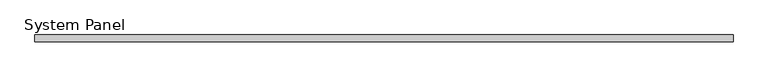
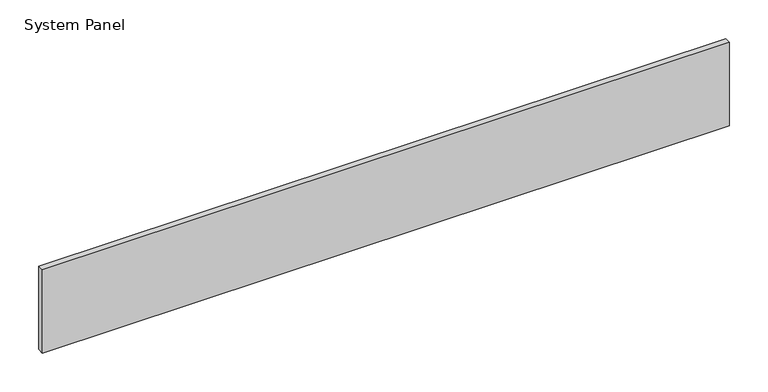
"""IFC4 building model written with IfcOpenShell, lengths in millimetres: plate geometry, System Panel : VACÍO."""

from ifc_helpers import new_model, si_unit, origin, origin_with_axes, place, context, project, spatial, polyline, outline, extrude, source, transform, mapped, element, save


def system_panel_96c10789(model_context):
    return source(origin(), model_context, "Body", "SweptSolid", [
        extrude(outline(polyline([(513.9968997, -5.0), (-513.9968997, -5.0), (-513.9968997, 5.0), (513.9968997, 5.0), (513.9968997, -5.0)])), origin_with_axes(), (0.0, 0.0, 1.0), 131.4545455),
    ])


if __name__ == "__main__":
    model = new_model("IFC4")
    model_context = context("Model", 3, world=origin())
    ifc_project = project(units=[si_unit("LENGTHUNIT", "METRE", prefix="MILLI")], contexts=[model_context])
    site = spatial("IfcSite", under=ifc_project)
    building = spatial("IfcBuilding", under=site)
    placement = place(None, origin())
    system_panel_shape = system_panel_96c10789(model_context)
    element("IfcPlate", 1, ObjectType="System Panel : VACÍO", at=placement, inside=building, context=model_context, shape_type="MappedRepresentation", body=[
        mapped(system_panel_shape, transform((0.0, 0.0, 0.0), x_axis=(1.0, 0.0, 0.0), y_axis=(0.0, 1.0, 0.0), z_axis=(0.0, 0.0, 1.0))),
    ])
    save(model, "model.ifc")
